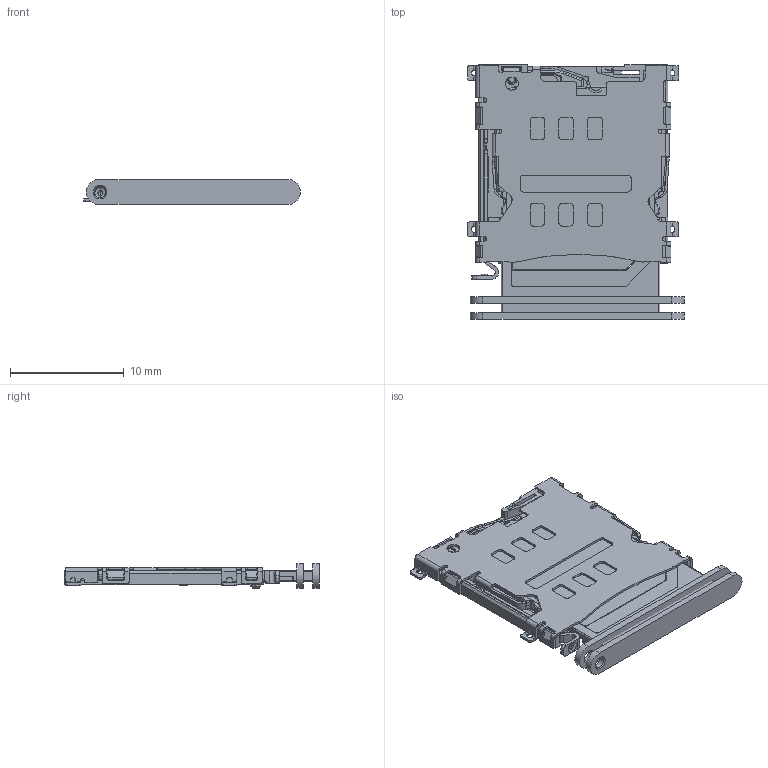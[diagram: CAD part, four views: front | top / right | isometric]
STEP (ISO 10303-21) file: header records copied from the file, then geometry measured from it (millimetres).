
FILE_DESCRIPTION((''),'2;1');
FILE_NAME('1050623AR001_ASM','2023-07-27T15:56:50',('Administrator'),(''),'CREO PARAMETRIC BY PTC INC, 2020053','CREO PARAMETRIC BY PTC INC, 2020053','');
FILE_SCHEMA(('CONFIG_CONTROL_DESIGN'));
Products named in the file (13): 1050623AR001-1; 1050623AR001-2; 1050623AR001-3; 1050623AR001-4; 1050623AR001-5; 1050623AR001-6; 1050623AR001-7; 1050623AR001-8; 1050623AR001-9; 1050623AR001-10; TRAY; CARD; 1050623AR001_ASM
Assembly tree (14 placements, depth 2):
  1050623AR001_ASM
    1050623AR001-1
    1050623AR001-2
    1050623AR001-3
    1050623AR001-4
    1050623AR001-5  x2
    1050623AR001-6
    1050623AR001-7
    1050623AR001-8
    1050623AR001-9
    1050623AR001-10
    TRAY  x2
    CARD
Bounding box: 19.09 x 22.43 x 2.2 mm (x, y, z)
Volume: 489 mm3; surface area: 2661.1 mm2
Topology: 14 solids, 14 shells, 2447 faces, 6642 edges, 4202 vertices
Faces by surface type: plane 1420, cylinder 833, torus 102, bspline 33, sphere 24, cone 22, extrusion 13
Entity records: 70522 total; most frequent: CARTESIAN_POINT 13435, DIRECTION 11973, ORIENTED_EDGE 11944, EDGE_CURVE 5972, VECTOR 4187, LINE 4174, AXIS2_PLACEMENT_3D 3893, VERTEX_POINT 3804
